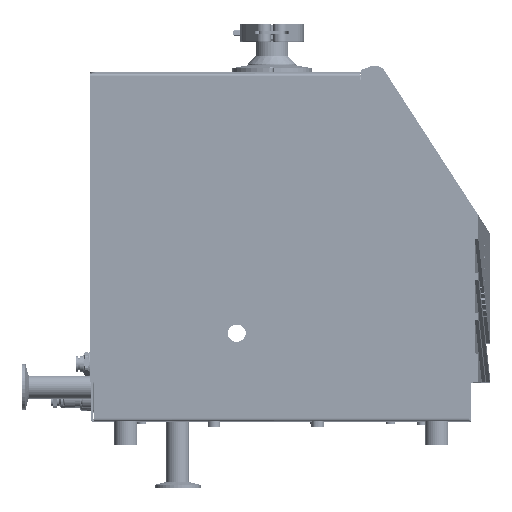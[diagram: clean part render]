
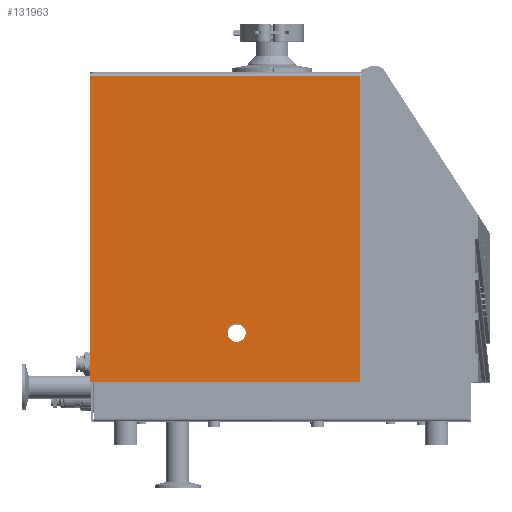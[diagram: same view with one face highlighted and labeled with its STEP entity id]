
A CAD part, top view. The second image highlights one B-rep face of the part: STEP entity #131963.
In plain terms, the highlighted planar face has unit normal (0, 0, 1).
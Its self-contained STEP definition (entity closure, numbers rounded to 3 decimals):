
#1097 = VECTOR ( 'NONE', #18663, 1000. ) ;
#9472 = EDGE_LOOP ( 'NONE', ( #131267, #121566 ) ) ;
#10064 = CIRCLE ( 'NONE', #80903, 8. ) ;
#16872 = CARTESIAN_POINT ( 'NONE',  ( 517.861, 575.316, 1136.426 ) ) ;
#18663 = DIRECTION ( 'NONE',  ( 0., -1., 0. ) ) ;
#20747 = EDGE_LOOP ( 'NONE', ( #285451, #70682, #284657, #36238 ) ) ;
#22681 = PLANE ( 'NONE',  #279953 ) ;
#30621 = DIRECTION ( 'NONE',  ( 0., -1., 0. ) ) ;
#36238 = ORIENTED_EDGE ( 'NONE', *, *, #210064, .T. ) ;
#39273 = CARTESIAN_POINT ( 'NONE',  ( 411.161, 626.316, 1136.426 ) ) ;
#43413 = FACE_BOUND ( 'NONE', #9472, .T. ) ;
#53107 = EDGE_CURVE ( 'NONE', #114950, #94937, #200163, .T. ) ;
#58186 = LINE ( 'NONE', #83220, #193374 ) ;
#65942 = LINE ( 'NONE', #287294, #93225 ) ;
#69480 = VERTEX_POINT ( 'NONE', #279218 ) ;
#70682 = ORIENTED_EDGE ( 'NONE', *, *, #53107, .T. ) ;
#72766 = CARTESIAN_POINT ( 'NONE',  ( 283.661, 575.316, 1136.426 ) ) ;
#76382 = DIRECTION ( 'NONE',  ( 0., 0., 1. ) ) ;
#78194 = CARTESIAN_POINT ( 'NONE',  ( 283.661, 840.816, 1136.426 ) ) ;
#80903 = AXIS2_PLACEMENT_3D ( 'NONE', #119211, #76382, #30621 ) ;
#83220 = CARTESIAN_POINT ( 'NONE',  ( 284.861, 575.316, 1136.426 ) ) ;
#86601 = CARTESIAN_POINT ( 'NONE',  ( 283.661, 840.816, 1136.426 ) ) ;
#87661 = CARTESIAN_POINT ( 'NONE',  ( 517.861, 840.816, 1136.426 ) ) ;
#93225 = VECTOR ( 'NONE', #248871, 1000. ) ;
#94937 = VERTEX_POINT ( 'NONE', #72766 ) ;
#114180 = CARTESIAN_POINT ( 'NONE',  ( 284.861, 709.316, 1136.426 ) ) ;
#114950 = VERTEX_POINT ( 'NONE', #78194 ) ;
#119211 = CARTESIAN_POINT ( 'NONE',  ( 411.161, 618.316, 1136.426 ) ) ;
#121566 = ORIENTED_EDGE ( 'NONE', *, *, #226784, .F. ) ;
#127519 = VERTEX_POINT ( 'NONE', #16872 ) ;
#129988 = CARTESIAN_POINT ( 'NONE',  ( 411.161, 610.316, 1136.426 ) ) ;
#131267 = ORIENTED_EDGE ( 'NONE', *, *, #228680, .F. ) ;
#131963 = ADVANCED_FACE ( 'NONE', ( #43413, #134893 ), #22681, .F. ) ;
#134893 = FACE_OUTER_BOUND ( 'NONE', #20747, .T. ) ;
#145988 = AXIS2_PLACEMENT_3D ( 'NONE', #221465, #262852, #289337 ) ;
#193374 = VECTOR ( 'NONE', #285339, 1000. ) ;
#199795 = DIRECTION ( 'NONE',  ( 0., -1., 0. ) ) ;
#200163 = LINE ( 'NONE', #86601, #1097 ) ;
#210064 = EDGE_CURVE ( 'NONE', #127519, #69480, #65942, .T. ) ;
#210715 = VERTEX_POINT ( 'NONE', #39273 ) ;
#213835 = EDGE_CURVE ( 'NONE', #94937, #127519, #58186, .T. ) ;
#216531 = CIRCLE ( 'NONE', #145988, 8. ) ;
#221465 = CARTESIAN_POINT ( 'NONE',  ( 411.161, 618.316, 1136.426 ) ) ;
#226784 = EDGE_CURVE ( 'NONE', #210715, #252180, #216531, .T. ) ;
#227797 = DIRECTION ( 'NONE',  ( 1., 0., 0. ) ) ;
#227808 = DIRECTION ( 'NONE',  ( 0., 0., -1. ) ) ;
#228680 = EDGE_CURVE ( 'NONE', #252180, #210715, #10064, .T. ) ;
#248871 = DIRECTION ( 'NONE',  ( 0., 1., 0. ) ) ;
#249887 = LINE ( 'NONE', #87661, #283046 ) ;
#252180 = VERTEX_POINT ( 'NONE', #129988 ) ;
#262852 = DIRECTION ( 'NONE',  ( 0., 0., 1. ) ) ;
#275538 = EDGE_CURVE ( 'NONE', #114950, #69480, #249887, .T. ) ;
#279218 = CARTESIAN_POINT ( 'NONE',  ( 517.861, 840.816, 1136.426 ) ) ;
#279953 = AXIS2_PLACEMENT_3D ( 'NONE', #114180, #227808, #199795 ) ;
#283046 = VECTOR ( 'NONE', #227797, 1000. ) ;
#284657 = ORIENTED_EDGE ( 'NONE', *, *, #213835, .T. ) ;
#285339 = DIRECTION ( 'NONE',  ( 1., 0., 0. ) ) ;
#285451 = ORIENTED_EDGE ( 'NONE', *, *, #275538, .F. ) ;
#287294 = CARTESIAN_POINT ( 'NONE',  ( 517.861, 709.316, 1136.426 ) ) ;
#289337 = DIRECTION ( 'NONE',  ( 0., -1., 0. ) ) ;
